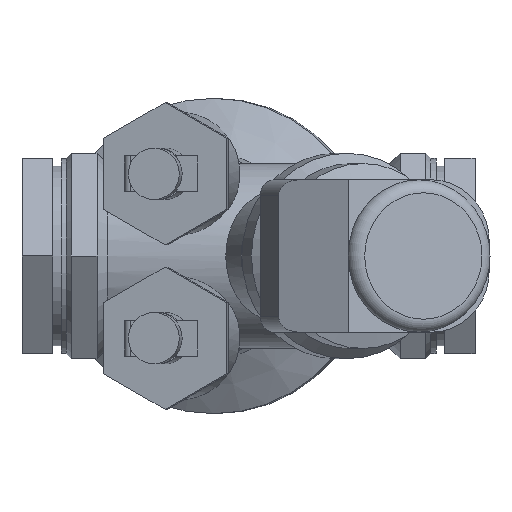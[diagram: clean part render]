
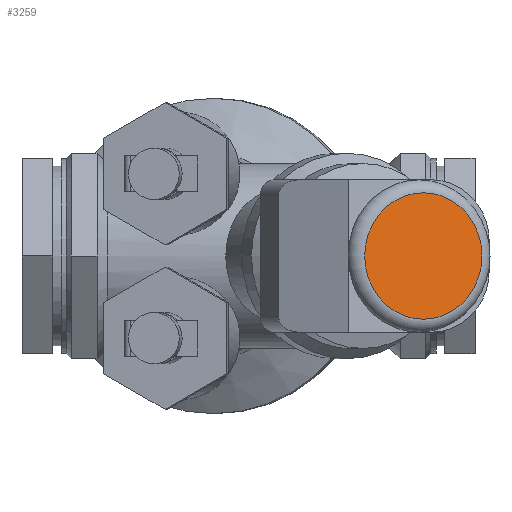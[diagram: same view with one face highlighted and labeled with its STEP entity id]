
A CAD part, front view. The second image highlights one B-rep face of the part: STEP entity #3259.
In plain terms, the highlighted planar face has unit normal (0.375, -0.927, 0).
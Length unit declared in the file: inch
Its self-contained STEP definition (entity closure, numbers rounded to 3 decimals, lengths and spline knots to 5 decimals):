
#168=CIRCLE('',#3609,0.61577);
#169=CIRCLE('',#3610,0.61577);
#360=FACE_OUTER_BOUND('',#548,.T.);
#548=EDGE_LOOP('',(#2260,#2261));
#1332=VERTEX_POINT('',#5449);
#1333=VERTEX_POINT('',#5450);
#1685=EDGE_CURVE('',#1332,#1333,#168,.T.);
#1686=EDGE_CURVE('',#1333,#1332,#169,.T.);
#2260=ORIENTED_EDGE('',*,*,#1685,.T.);
#2261=ORIENTED_EDGE('',*,*,#1686,.T.);
#2932=PLANE('',#3612);
#3259=ADVANCED_FACE('',(#360),#2932,.T.);
#3609=AXIS2_PLACEMENT_3D('',#5451,#4176,#4177);
#3610=AXIS2_PLACEMENT_3D('',#5452,#4178,#4179);
#3612=AXIS2_PLACEMENT_3D('',#5454,#4182,#4183);
#4176=DIRECTION('center_axis',(0.375,-0.927,0.));
#4177=DIRECTION('ref_axis',(0.927,0.375,0.));
#4178=DIRECTION('center_axis',(0.375,-0.927,0.));
#4179=DIRECTION('ref_axis',(0.927,0.375,0.));
#4182=DIRECTION('center_axis',(0.375,-0.927,0.));
#4183=DIRECTION('ref_axis',(0.,0.,-1.));
#5449=CARTESIAN_POINT('',(1.13011,-4.4409,0.));
#5450=CARTESIAN_POINT('',(1.70104,-4.21023,0.61577));
#5451=CARTESIAN_POINT('Origin',(1.70104,-4.21023,0.));
#5452=CARTESIAN_POINT('Origin',(1.70104,-4.21023,0.));
#5454=CARTESIAN_POINT('Origin',(1.70104,-4.21023,0.));
